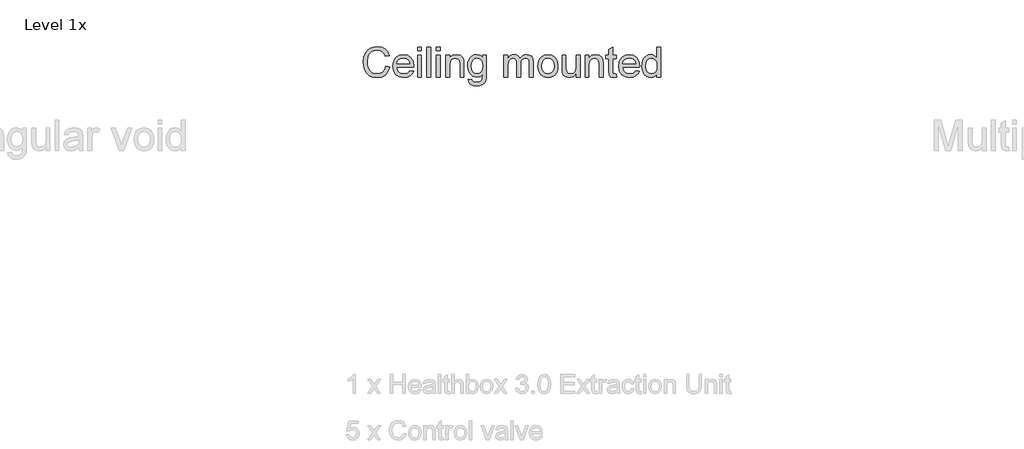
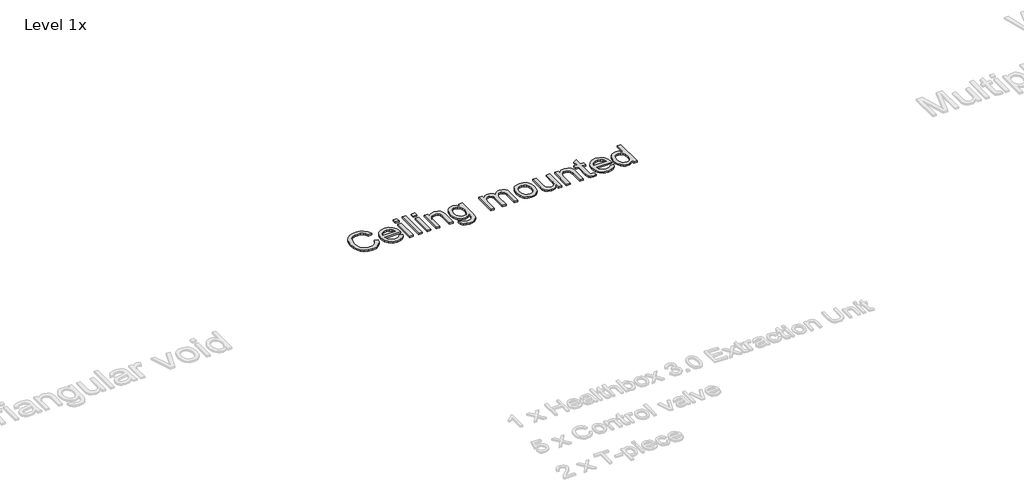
# One storey, part 6 of 7: 1 proxy.
"""IFC4 building model written with IfcOpenShell, lengths in millimetres."""

from ifc_helpers import new_model, si_unit, origin, origin_with_axes, place, context, project, spatial, polyline, outline, extrude, element, save

model = new_model("IFC4")

# Units and contexts
model_context = context("Model", 3, world=origin())
ifc_project = project(units=[si_unit("LENGTHUNIT", "METRE", prefix="MILLI")], contexts=[model_context])

# Site, building, storey
site = spatial("IfcSite", under=ifc_project)
building = spatial("IfcBuilding", under=site)
storey = spatial("IfcBuildingStorey", under=building, Name="Level 1x", Elevation=0.0)

# Proxy
placement = place(None, origin())
element("IfcBuildingElementProxy", 1, Name="190mm Arial", ObjectType="190mm Arial", at=placement, inside=storey, context=model_context, shape_type="SweptSolid", body=[
    extrude(outline(polyline([(-11508.715509, 380.9743461), (-11484.8571353, 374.8233592), (-11495.866004, 347.0215971), (-11513.1423557, 326.7105256), (-11535.8357697, 314.2862309), (-11563.0958255, 310.1447993), (-11590.769442, 313.2785408), (-11612.7464059, 322.6797652), (-11629.5917224, 338.0222838), (-11641.8703971, 358.9799079), (-11649.3669125, 383.6188046), (-11651.865751, 410.0051407), (-11649.0407238, 437.8360267), (-11640.5656423, 461.8691443), (-11626.8831912, 481.3414449), (-11608.4360551, 495.4898799), (-11586.5581129, 504.1047565), (-11562.5832433, 506.976382), (-11536.4240743, 503.2601608), (-11514.7965984, 492.1114969), (-11498.3764921, 474.2177166), (-11487.839432, 450.2661462), (-11511.6978057, 444.5811431), (-11519.9690192, 461.9798155), (-11531.2691278, 473.9148271), (-11545.7379267, 480.8172131), (-11563.515211, 483.1180084), (-11584.0068513, 480.5667467), (-11600.8405182, 472.9129618), (-11613.6143008, 460.9604758), (-11621.9262879, 445.5131108), (-11628.0073773, 410.051739), (-11626.2075146, 388.0107024), (-11620.8079266, 368.9519625), (-11611.6047454, 353.6036191), (-11598.394103, 342.693772), (-11582.5564765, 336.1758228), (-11565.4723432, 334.003173), (-11545.557358, 336.9621705), (-11528.9625077, 345.8391631), (-11516.4333667, 360.5409539), (-11508.715509, 380.9743461)])), origin_with_axes(), (0.0, 0.0, 1.0), 10.0),
    extrude(outline(polyline([(-11356.8979672, 354.87925), (-11333.5055774, 351.8969533), (-11341.9340605, 334.2711137), (-11355.3835197, 321.0954201), (-11373.5510654, 312.8824545), (-11396.1338083, 310.1447993), (-11424.1277887, 314.8687107), (-11445.6678927, 329.0404449), (-11459.4027669, 351.7396837), (-11463.9810584, 382.046109), (-11459.3561686, 413.3718741), (-11445.4814991, 436.7992126), (-11424.2326351, 451.4078067), (-11397.4851615, 456.277338), (-11371.570634, 451.4194563), (-11350.8634762, 436.845811), (-11337.2858715, 413.4650708), (-11332.7600032, 382.1859042), (-11332.8997984, 375.7553269), (-11440.1226847, 375.7553269), (-11435.9929028, 357.8964955), (-11426.39946, 344.7674002), (-11412.5539146, 336.6942298), (-11395.6678244, 334.003173), (-11372.2754346, 338.9892003), (-11363.5848356, 345.4547264), (-11356.8979672, 354.87925)]), holes=[polyline([(-11440.1226847, 399.6137006), (-11356.6183769, 399.6137006), (-11359.8453151, 412.218564), (-11366.171046, 421.2353517), (-11380.0806643, 429.6230612), (-11397.5783582, 432.4189644), (-11413.6606262, 430.1880666), (-11426.9586407, 423.4953734), (-11436.2025955, 413.0631597), (-11440.1226847, 399.6137006)])]), origin_with_axes(), (0.0, 0.0, 1.0), 10.0),
    extrude(outline(polyline([(-11308.9016296, 313.1270961), (-11308.9016296, 453.2950413), (-11285.0432559, 453.2950413), (-11285.0432559, 313.1270961), (-11308.9016296, 313.1270961)])), origin_with_axes(), (0.0, 0.0, 1.0), 10.0),
    extrude(outline(polyline([(-11308.9016296, 480.1357117), (-11308.9016296, 503.9940853), (-11285.0432559, 503.9940853), (-11285.0432559, 480.1357117), (-11308.9016296, 480.1357117)])), origin_with_axes(), (0.0, 0.0, 1.0), 10.0),
    extrude(outline(polyline([(-11249.2556954, 313.1270961), (-11249.2556954, 503.9940853), (-11225.3973218, 503.9940853), (-11225.3973218, 313.1270961), (-11249.2556954, 313.1270961)])), origin_with_axes(), (0.0, 0.0, 1.0), 10.0),
    extrude(outline(polyline([(-11189.6097613, 480.1357117), (-11189.6097613, 503.9940853), (-11165.7513876, 503.9940853), (-11165.7513876, 480.1357117), (-11189.6097613, 480.1357117)])), origin_with_axes(), (0.0, 0.0, 1.0), 10.0),
    extrude(outline(polyline([(-11189.6097613, 313.1270961), (-11189.6097613, 453.2950413), (-11165.7513876, 453.2950413), (-11165.7513876, 313.1270961), (-11189.6097613, 313.1270961)])), origin_with_axes(), (0.0, 0.0, 1.0), 10.0),
    extrude(outline(polyline([(-11129.9638271, 313.1270961), (-11129.9638271, 453.2950413), (-11106.1054535, 453.2950413), (-11106.1054535, 433.7237192), (-11097.8167655, 443.5909274), (-11087.8621853, 450.6389333), (-11062.955348, 456.277338), (-11040.4250283, 451.7339954), (-11025.0475609, 439.8048085), (-11017.8947087, 422.2605162), (-11016.6365522, 399.1943151), (-11016.6365522, 313.1270961), (-11040.4949259, 313.1270961), (-11040.4949259, 395.9790265), (-11043.2442307, 417.0880953), (-11052.9599942, 428.2484088), (-11069.3393269, 432.4189644), (-11083.3130179, 430.0773955), (-11095.2247303, 423.0526888), (-11103.3852727, 409.4809088), (-11106.1054535, 387.4981202), (-11106.1054535, 313.1270961), (-11129.9638271, 313.1270961)])), origin_with_axes(), (0.0, 0.0, 1.0), 10.0),
    extrude(outline(polyline([(-10989.7958819, 301.1979092), (-10965.9375082, 298.2156125), (-10963.3046994, 290.7598707), (-10958.2021761, 285.6340483), (-10948.1718735, 281.6498863), (-10935.0427783, 280.3218323), (-10921.0399632, 281.8246302), (-10910.625224, 286.3330241), (-10903.4024741, 293.5557739), (-10898.9756275, 303.2016398), (-10897.3446839, 331.0208763), (-10914.1434021, 317.6005411), (-10934.6233928, 313.1270961), (-10959.2215158, 318.3344657), (-10977.5638055, 333.9565746), (-10988.9745853, 356.8596814), (-10992.7781786, 383.9100445), (-10991.0715127, 403.1726523), (-10985.951515, 420.8858638), (-10977.5987543, 435.8963689), (-10966.1937993, 447.0508576), (-10952.1269115, 453.9707179), (-10935.7883524, 456.277338), (-10914.5045396, 451.0583188), (-10897.3446839, 435.4012611), (-10897.3446839, 453.2950413), (-10873.4863103, 453.2950413), (-10873.4863103, 332.2790327), (-10875.1172538, 304.3374755), (-10880.0100843, 285.9369378), (-10888.4385674, 273.7339854), (-10900.6764685, 264.3851842), (-10916.455847, 258.44389), (-10935.5087621, 256.4634586), (-10957.7070683, 259.253537), (-10975.1872878, 267.6237721), (-10986.4000245, 281.5974631), (-10989.7958819, 301.1979092)]), holes=[polyline([(-10968.9198049, 385.540988), (-10966.3743681, 363.6572209), (-10958.7380576, 348.611767), (-10947.2573802, 339.892044), (-10933.1788428, 336.9854697), (-10919.2051518, 339.8745696), (-10907.6662265, 348.5418695), (-10899.9250696, 363.395105), (-10897.3446839, 384.8420122), (-10900.0007919, 405.5258708), (-10907.969116, 420.4198799), (-10919.6769605, 429.4191933), (-10933.5516299, 432.4189644), (-10947.175833, 429.4657916), (-10958.5982624, 420.6062735), (-10966.3394193, 405.9336067), (-10968.9198049, 385.540988)])]), origin_with_axes(), (0.0, 0.0, 1.0), 10.0),
    extrude(outline(polyline([(-10763.1413321, 313.1270961), (-10763.1413321, 453.2950413), (-10739.2829584, 453.2950413), (-10739.2829584, 430.2288402), (-10722.8803265, 449.1244858), (-10711.9180562, 454.489125), (-10699.5345351, 456.277338), (-10686.2656447, 454.4541762), (-10675.6295631, 448.9846906), (-10667.6845383, 440.2300188), (-10662.4888182, 428.5512983), (-10653.7923944, 440.6814407), (-10643.872763, 449.3458281), (-10632.7299239, 454.5444605), (-10620.3638772, 456.277338), (-10602.4293234, 453.3940629), (-10589.1662578, 444.7442375), (-10580.9707666, 430.0948699), (-10578.2389362, 409.2129681), (-10578.2389362, 313.1270961), (-10602.0973099, 313.1270961), (-10602.0973099, 398.9613232), (-10604.3107332, 418.8821332), (-10612.3256556, 428.6910935), (-10625.9556836, 432.4189644), (-10638.8809109, 430.0307971), (-10649.4179709, 422.8662952), (-10656.4252032, 410.4361757), (-10658.7609473, 392.2511556), (-10658.7609473, 313.1270961), (-10682.619321, 313.1270961), (-10682.619321, 401.6174312), (-10683.9997982, 415.1076639), (-10688.1412297, 424.7302307), (-10695.4280524, 430.4967809), (-10706.2447027, 432.4189644), (-10723.905491, 427.2931419), (-10730.8952489, 420.9790606), (-10735.6482843, 412.2884616), (-10739.2829584, 383.8168477), (-10739.2829584, 313.1270961), (-10763.1413321, 313.1270961)])), origin_with_axes(), (0.0, 0.0, 1.0), 10.0),
    extrude(outline(polyline([(-10548.4159692, 383.2110687), (-10543.2551979, 417.0065482), (-10536.8042338, 430.1385558), (-10527.7728841, 440.7600755), (-10508.6442467, 452.3980224), (-10485.7411399, 456.277338), (-10460.677033, 451.5534266), (-10440.6572014, 437.3816925), (-10427.5339309, 414.8804968), (-10423.1595074, 385.1682009), (-10425.0933405, 361.0651857), (-10430.8948395, 342.7170712), (-10440.3950855, 328.9763721), (-10453.4251592, 318.6956032), (-10468.9016481, 312.2825003), (-10485.7411399, 310.1447993), (-10511.1081363, 314.8512363), (-10531.1046687, 328.9705473), (-10544.088144, 351.9435516), (-10548.4159692, 383.2110687)]), holes=[polyline([(-10524.5575955, 383.2576671), (-10521.7966411, 361.6651399), (-10513.513778, 346.2818477), (-10501.0487097, 337.0728417), (-10485.7411399, 334.003173), (-10470.5034677, 337.0903161), (-10458.0616986, 346.3517453), (-10449.7788355, 361.9389054), (-10447.0178811, 384.0032412), (-10449.7963099, 404.9666902), (-10458.1315962, 420.1402896), (-10470.5908396, 429.3492957), (-10485.7411399, 432.4189644), (-10501.0487097, 429.3609453), (-10513.513778, 420.186888), (-10521.7966411, 404.8385446), (-10524.5575955, 383.2576671)])]), origin_with_axes(), (0.0, 0.0, 1.0), 10.0),
    extrude(outline(polyline([(-10306.8499358, 313.1270961), (-10306.8499358, 337.2184616), (-10315.4822869, 325.3737344), (-10325.5358886, 316.9132149), (-10337.0107412, 311.8369032), (-10349.9068446, 310.1447993), (-10372.3439674, 314.8978347), (-10387.8146316, 326.8270216), (-10394.9208855, 344.3946131), (-10396.3188371, 366.5754449), (-10396.3188371, 453.2950413), (-10372.4604634, 453.2950413), (-10372.4604634, 377.8056559), (-10371.0159134, 353.4812984), (-10361.5797403, 339.1988931), (-10343.802456, 334.003173), (-10323.8816459, 339.315389), (-10315.9424459, 345.5886967), (-10310.7176019, 353.7841879), (-10306.8499358, 380.3685671), (-10306.8499358, 453.2950413), (-10282.9915622, 453.2950413), (-10282.9915622, 313.1270961), (-10306.8499358, 313.1270961)])), origin_with_axes(), (0.0, 0.0, 1.0), 10.0),
    extrude(outline(polyline([(-10250.1862984, 313.1270961), (-10250.1862984, 453.2950413), (-10226.3279247, 453.2950413), (-10226.3279247, 433.7237192), (-10218.0392368, 443.5909274), (-10208.0846566, 450.6389333), (-10183.1778192, 456.277338), (-10160.6474996, 451.7339954), (-10145.2700322, 439.8048085), (-10138.1171799, 422.2605162), (-10136.8590235, 399.1943151), (-10136.8590235, 313.1270961), (-10160.7173972, 313.1270961), (-10160.7173972, 395.9790265), (-10163.4667019, 417.0880953), (-10173.1824654, 428.2484088), (-10189.5617981, 432.4189644), (-10203.5354892, 430.0773955), (-10215.4472016, 423.0526888), (-10223.607744, 409.4809088), (-10226.3279247, 387.4981202), (-10226.3279247, 313.1270961), (-10250.1862984, 313.1270961)])), origin_with_axes(), (0.0, 0.0, 1.0), 10.0),
    extrude(outline(polyline([(-10053.3547157, 333.0246069), (-10050.372419, 312.4281203), (-10068.2196008, 310.1447993), (-10088.2103085, 314.1056622), (-10098.1823631, 324.4971022), (-10101.071463, 351.5707645), (-10101.071463, 429.4366676), (-10118.9652433, 429.4366676), (-10118.9652433, 453.2950413), (-10101.071463, 453.2950413), (-10101.071463, 487.3584615), (-10077.2130894, 501.3845757), (-10077.2130894, 453.2950413), (-10053.3547157, 453.2950413), (-10053.3547157, 429.4366676), (-10077.2130894, 429.4366676), (-10077.2130894, 352.2697403), (-10075.9549329, 339.9677664), (-10071.8775742, 335.6108173), (-10063.7461558, 334.003173), (-10053.3547157, 333.0246069)])), origin_with_axes(), (0.0, 0.0, 1.0), 10.0),
    extrude(outline(polyline([(-9931.360141, 354.87925), (-9907.9677512, 351.8969533), (-9916.3962343, 334.2711137), (-9929.8456935, 321.0954201), (-9948.0132392, 312.8824545), (-9970.5959821, 310.1447993), (-9998.5899625, 314.8687107), (-10020.1300664, 329.0404449), (-10033.8649407, 351.7396837), (-10038.4432322, 382.046109), (-10033.8183423, 413.3718741), (-10019.9436729, 436.7992126), (-9998.6948089, 451.4078067), (-9971.9473353, 456.277338), (-9946.0328078, 451.4194563), (-9925.32565, 436.845811), (-9911.7480453, 413.4650708), (-9907.222177, 382.1859042), (-9907.3619722, 375.7553269), (-10014.5848585, 375.7553269), (-10010.4550765, 357.8964955), (-10000.8616338, 344.7674002), (-9987.0160883, 336.6942298), (-9970.1299982, 334.003173), (-9946.7376084, 338.9892003), (-9938.0470094, 345.4547264), (-9931.360141, 354.87925)]), holes=[polyline([(-10014.5848585, 399.6137006), (-9931.0805507, 399.6137006), (-9934.3074889, 412.218564), (-9940.6332198, 421.2353517), (-9954.5428381, 429.6230612), (-9972.040532, 432.4189644), (-9988.1228, 430.1880666), (-10001.4208144, 423.4953734), (-10010.6647693, 413.0631597), (-10014.5848585, 399.6137006)])]), origin_with_axes(), (0.0, 0.0, 1.0), 10.0),
    extrude(outline(polyline([(-9796.8771988, 313.1270961), (-9796.8771988, 335.6341165), (-9804.0154891, 324.4825403), (-9812.6624021, 316.5171286), (-9822.8179379, 311.7378817), (-9834.4820964, 310.1447993), (-9849.9061622, 312.4514195), (-9864.0254732, 319.3712798), (-9875.9779592, 330.4209221), (-9884.9015501, 345.1168881), (-9890.4584076, 362.8650484), (-9892.3106935, 383.0712735), (-9890.6040276, 403.0270324), (-9885.4840299, 421.0489582), (-9876.9565253, 436.1118864), (-9865.0273385, 447.1906527), (-9850.5993132, 454.0056667), (-9834.5752932, 456.277338), (-9822.9023975, 454.6522193), (-9812.5808549, 449.7768632), (-9796.8771988, 432.8849482), (-9796.8771988, 503.9940853), (-9773.0188252, 503.9940853), (-9773.0188252, 313.1270961), (-9796.8771988, 313.1270961)]), holes=[polyline([(-9868.4523198, 383.1644703), (-9865.761263, 361.5835928), (-9857.6880926, 346.2352493), (-9845.956949, 337.0611921), (-9832.2919722, 334.003173), (-9818.6328203, 336.9213969), (-9807.1987414, 345.6760687), (-9799.4575845, 360.4302827), (-9796.8771988, 381.3471332), (-9799.5041829, 404.2152912), (-9807.3851349, 420.0703921), (-9819.1104538, 429.3318213), (-9833.2705384, 432.4189644), (-9847.0753102, 429.454142), (-9858.3870684, 420.5596751), (-9865.936007, 405.2812293), (-9868.4523198, 383.1644703)])]), origin_with_axes(), (0.0, 0.0, 1.0), 10.0),
])

save(model, "model.ifc")
